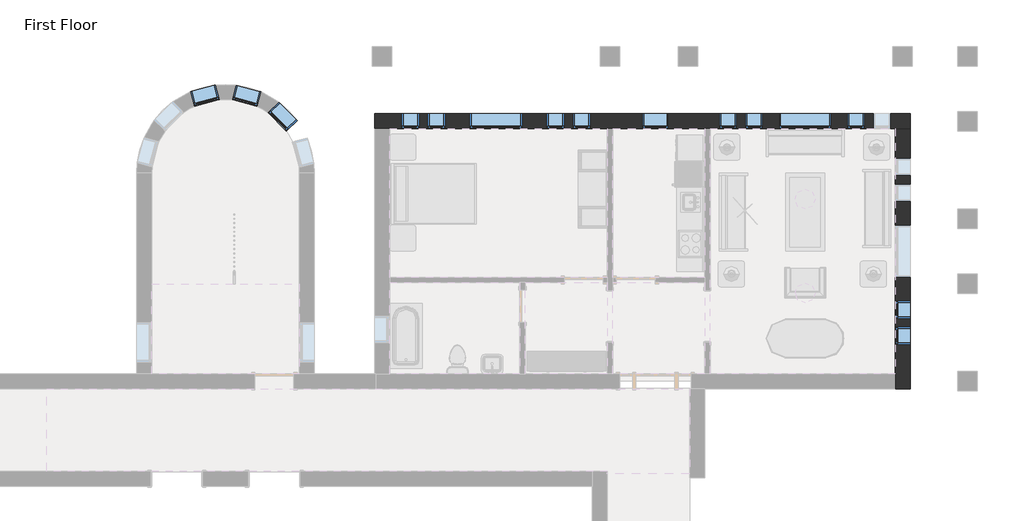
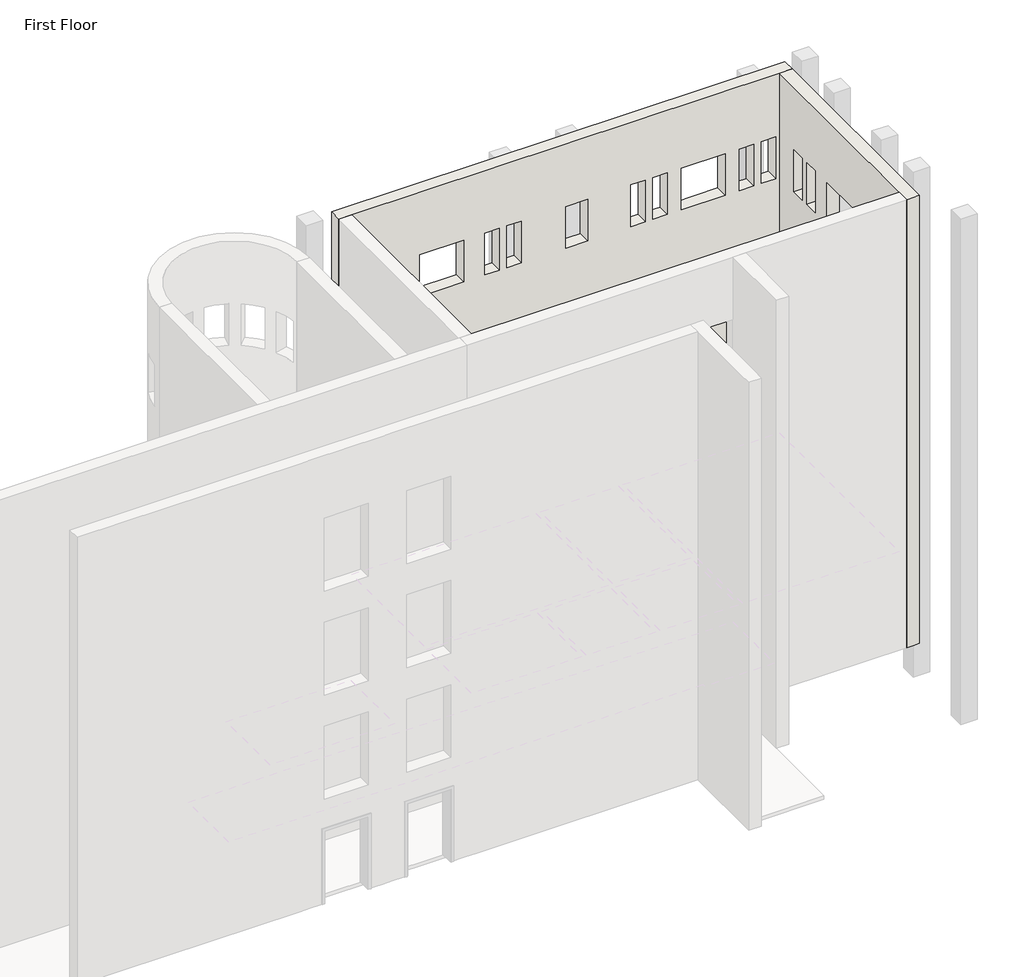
# One storey, part 5 of 8: 15 windows, 2 walls.
"""IFC4 building model written with IfcOpenShell, lengths in millimetres."""

import ifcopenshell
import ifcopenshell.guid

model = None  # the IFC model being written
_history = None  # IfcOwnerHistory: only IFC2X3 demands one
_inside = {}  # id of a spatial element -> (the spatial element, [elements in it])
_under = {}  # id of a project, library or spatial element -> (it, [spatial elements below it])
_declared = {}  # id of a project -> (the project, [libraries it declares])
_typed = {}  # id of a type object -> (the type object, [elements of that type])
_made_of = {}  # id of a material, layer set ... -> (it, [elements and type objects made of it])


def new_model(schema):
    """Start an empty IFC model of exactly this schema.

    Asked for "IFC4X3", IfcOpenShell would pick the latest addendum, in which some entities
    have other attributes; the version numbers below select the first issue.
    IFC2X3 requires an IfcOwnerHistory on every rooted entity: one is made here for all.
    """
    global model, _history
    if schema == "IFC4X3":
        model = ifcopenshell.file(schema_version=(4, 3, 0, 0))
    else:
        model = ifcopenshell.file(schema=schema)
    _inside.clear()
    _under.clear()
    _declared.clear()
    _typed.clear()
    _made_of.clear()
    _history = None
    if model.schema == "IFC2X3":
        org = make("IfcOrganization", Name="unknown")
        user = make(
            "IfcPersonAndOrganization",
            ThePerson=make("IfcPerson", FamilyName="unknown"),
            TheOrganization=org,
        )
        app = make(
            "IfcApplication",
            ApplicationDeveloper=org,
            Version="unknown",
            ApplicationFullName="unknown",
            ApplicationIdentifier="unknown",
        )
        _history = make(
            "IfcOwnerHistory",
            OwningUser=user,
            OwningApplication=app,
            ChangeAction="ADDED",
            CreationDate=0,
        )
    return model


def make(cls, **values):
    """One entity of the class cls with the attributes given. An attribute that is None is left unset."""
    return model.create_entity(
        cls, **{name: value for name, value in values.items() if value is not None}
    )


def rooted(cls, **values):
    """An entity with a GlobalId (a new one), such as an element, a storey or a relation."""
    return make(cls, GlobalId=ifcopenshell.guid.new(), OwnerHistory=_history, **values)


def si_unit(unit_type, name, prefix=None):
    """IfcSIUnit, for example si_unit("LENGTHUNIT", "METRE", prefix="MILLI")."""
    return make("IfcSIUnit", UnitType=unit_type, Prefix=prefix, Name=name)


def assignment(units):
    """IfcUnitAssignment: the units of a project."""
    return None if units is None else make("IfcUnitAssignment", Units=units)


def point(xyz):
    """IfcCartesianPoint."""
    return None if xyz is None else make("IfcCartesianPoint", Coordinates=xyz)


def direction(xyz):
    """IfcDirection."""
    return None if xyz is None else make("IfcDirection", DirectionRatios=xyz)


def frame(location, z_axis=None, x_axis=None):
    """IfcAxis2Placement3D, a coordinate frame: its origin and axes. An axis left out is left unset."""
    return make(
        "IfcAxis2Placement3D",
        Location=point(location),
        Axis=direction(z_axis),
        RefDirection=direction(x_axis),
    )


def origin():
    """The frame at (0, 0, 0) with its axes left unset."""
    return frame((0.0, 0.0, 0.0))


def place(relative_to, where):
    """IfcLocalPlacement: puts the frame where relative to a parent placement (None: the world)."""
    return make(
        "IfcLocalPlacement", PlacementRelTo=relative_to, RelativePlacement=where
    )


def context(
    kind, dimensions, precision=None, world=None, true_north=None, identifier=None
):
    """IfcGeometricRepresentationContext, for example the 3D "Model" context."""
    return make(
        "IfcGeometricRepresentationContext",
        ContextIdentifier=identifier,
        ContextType=kind,
        CoordinateSpaceDimension=dimensions,
        Precision=precision,
        WorldCoordinateSystem=world,
        TrueNorth=true_north,
    )


def project(units=None, contexts=None):
    """IfcProject with its units and contexts."""
    return rooted(
        "IfcProject",
        Name="project",
        RepresentationContexts=contexts,
        UnitsInContext=assignment(units),
    )


def spatial(cls, under=None, at=None, **own):
    """A site, building, storey or space (cls), placed at a placement, below another one or the project."""
    s = rooted(cls, ObjectPlacement=at, **own)
    if under is not None:
        _under.setdefault(under.id(), (under, []))[1].append(s)
    return s


def polyline(points):
    """IfcPolyline through the points."""
    return make("IfcPolyline", Points=[point(p) for p in points])


def outline(outer, holes=None, kind="AREA"):
    """IfcArbitraryClosedProfileDef: a profile drawn as a closed curve; with holes, ...WithVoids."""
    if holes is None:
        return make("IfcArbitraryClosedProfileDef", ProfileType=kind, OuterCurve=outer)
    return make(
        "IfcArbitraryProfileDefWithVoids",
        ProfileType=kind,
        OuterCurve=outer,
        InnerCurves=holes,
    )


def extrude(swept, where, along, depth):
    """IfcExtrudedAreaSolid: the profile swept, set in the frame where, extruded along a direction by depth."""
    return make(
        "IfcExtrudedAreaSolid",
        SweptArea=swept,
        Position=where,
        ExtrudedDirection=direction(along),
        Depth=depth,
    )


def faces_of(points, faces, orient=None, outer=None):
    """IfcFace entities. A face is a list of loops; a loop is a list of indices into points, from 0.

    orient and outer hold one flag for each loop. By default every Orientation is true, the
    first loop of a face is its IfcFaceOuterBound and the others are IfcFaceBound.
    """
    made = []
    for i, loops in enumerate(faces):
        bounds = []
        for j, loop in enumerate(loops):
            is_outer = j == 0 if outer is None else outer[i][j]
            bounds.append(
                make(
                    "IfcFaceOuterBound" if is_outer else "IfcFaceBound",
                    Bound=make("IfcPolyLoop", Polygon=[points[k] for k in loop]),
                    Orientation=True if orient is None else orient[i][j],
                )
            )
        made.append(make("IfcFace", Bounds=bounds))
    return made


def faceted_brep(points, faces, orient=None, outer=None, voids=None):
    """IfcFacetedBrep: a solid bounded by flat faces; with voids (closed shells), ...WithVoids."""
    shared = [point(p) for p in points]
    hull = make("IfcClosedShell", CfsFaces=faces_of(shared, faces, orient, outer))
    if voids is None:
        return make("IfcFacetedBrep", Outer=hull)
    return make(
        "IfcFacetedBrepWithVoids",
        Outer=hull,
        Voids=[
            make(cls, CfsFaces=faces_of(shared, fs, o, b)) for cls, fs, o, b in voids
        ],
    )


def shape(context_of_items, identifier, shape_type, items):
    """IfcShapeRepresentation: the items that make up one representation, for example the "Body"."""
    return make(
        "IfcShapeRepresentation",
        ContextOfItems=context_of_items,
        RepresentationIdentifier=identifier,
        RepresentationType=shape_type,
        Items=items,
    )


def source(mapping_origin, context_of_items, identifier, shape_type, items):
    """IfcRepresentationMap: a shape defined once, which mapped items show again and again."""
    return make(
        "IfcRepresentationMap",
        MappingOrigin=mapping_origin,
        MappedRepresentation=shape(context_of_items, identifier, shape_type, items),
    )


def transform(
    local_origin,
    x_axis=None,
    y_axis=None,
    z_axis=None,
    scale=None,
    scale2=None,
    scale3=None,
    uniform=True,
):
    """IfcCartesianTransformationOperator3D, or its non-uniform kind. x_axis, y_axis, z_axis: its Axis1, 2, 3."""
    if uniform:
        return make(
            "IfcCartesianTransformationOperator3D",
            Axis1=direction(x_axis),
            Axis2=direction(y_axis),
            LocalOrigin=point(local_origin),
            Scale=scale,
            Axis3=direction(z_axis),
        )
    return make(
        "IfcCartesianTransformationOperator3DnonUniform",
        Axis1=direction(x_axis),
        Axis2=direction(y_axis),
        LocalOrigin=point(local_origin),
        Scale=scale,
        Axis3=direction(z_axis),
        Scale2=scale2,
        Scale3=scale3,
    )


def mapped(mapping_source, mapping_target):
    """IfcMappedItem: shows the shape of a source again, moved by a transform."""
    return make(
        "IfcMappedItem", MappingSource=mapping_source, MappingTarget=mapping_target
    )


def made_of(thing, what):
    """Note that an element or type object is made of a material, layer set ...; save() writes the relation."""
    if what is not None:
        _made_of.setdefault(what.id(), (what, []))[1].append(thing)
    return thing


def element(
    cls,
    number,
    at=None,
    inside=None,
    cuts=None,
    type_object=None,
    material=None,
    context=None,
    identifier="Body",
    shape_type=None,
    held_by="IfcProductDefinitionShape",
    body=None,
    shapes=None,
    **own,
):
    """One element of the class cls, such as IfcWall. Its Tag is "e" and its number.

    at: its placement. inside: the storey or other place that contains it. cuts: it is an
    opening in that element (IfcRelVoidsElement). A single representation is given by context,
    identifier, shape_type and body (its items); several are given by shapes. held_by: the class
    of the entity that holds the representations. save() writes the other relations.
    """
    e = rooted(cls, Tag="e%d" % number, ObjectPlacement=at, **own)
    if body is not None:
        shapes = [shape(context, identifier, shape_type, body)]
    if shapes is not None:
        e.Representation = make(held_by, Representations=shapes)
    if inside is not None:
        _inside.setdefault(inside.id(), (inside, []))[1].append(e)
    if cuts is not None:
        rooted(
            "IfcRelVoidsElement", RelatingBuildingElement=cuts, RelatedOpeningElement=e
        )
    if type_object is not None:
        _typed.setdefault(type_object.id(), (type_object, []))[1].append(e)
    return made_of(e, material)


def aggregate(whole, parts):
    """IfcRelAggregates: a whole, such as a stair, and the parts it consists of."""
    return rooted("IfcRelAggregates", RelatingObject=whole, RelatedObjects=parts)


def save(model, path):
    """Write the relations noted so far, then the file.

    IfcRelAggregates (storeys below a building ...), IfcRelContainedInSpatialStructure (elements
    in a storey), IfcRelDefinesByType, IfcRelAssociatesMaterial and IfcRelDeclares: one each for
    every whole, place, type object, material and project.
    """
    for whole, parts in _under.values():
        aggregate(whole, parts)
    for where, things in _inside.values():
        rooted(
            "IfcRelContainedInSpatialStructure",
            RelatedElements=things,
            RelatingStructure=where,
        )
    for kind, things in _typed.values():
        rooted("IfcRelDefinesByType", RelatedObjects=things, RelatingType=kind)
    for what, things in _made_of.values():
        rooted("IfcRelAssociatesMaterial", RelatedObjects=things, RelatingMaterial=what)
    for by, libraries in _declared.values():
        rooted("IfcRelDeclares", RelatingContext=by, RelatedDefinitions=libraries)
    model.write(path)


def window_da97879f(model_context):
    return source(origin(), model_context, "Body", "SweptSolid", [
        extrude(outline(polyline([(101.6, 128.5875), (-177.8, 128.5875), (-177.8, 141.2875), (101.6, 141.2875), (101.6, 128.5875)])), frame((0.0, 0.0, 977.9), z_axis=(0.0, 0.0, 1.0), x_axis=(1.0, 0.0, 0.0)), (0.0, 0.0, 1.0), 1092.2),
        extrude(outline(polyline([(2114.55, -222.25), (933.45, -222.25), (933.45, 146.05), (2114.55, 146.05), (2114.55, -222.25)]), holes=[polyline([(2070.1, -177.8), (2070.1, 101.6), (977.9, 101.6), (977.9, -177.8), (2070.1, -177.8)])]), frame((0.0, 112.7125, 0.0), z_axis=(0.0, 1.0, 0.0), x_axis=(0.0, 0.0, 1.0)), (0.0, 0.0, 1.0), 44.45),
        extrude(outline(polyline([(2133.6, -241.3), (914.4, -241.3), (914.4, 165.1), (2133.6, 165.1), (2133.6, -241.3)]), holes=[polyline([(2101.85, -209.55), (2101.85, 133.35), (946.15, 133.35), (946.15, -209.55), (2101.85, -209.55)])]), frame((0.0, -176.2125, 0.0), z_axis=(0.0, 1.0, 0.0), x_axis=(0.0, 0.0, 1.0)), (0.0, 0.0, 1.0), 288.925),
        extrude(outline(polyline([(2133.6, 165.1), (2133.6, -241.3), (914.4, -241.3), (914.4, 165.1), (2133.6, 165.1)]), holes=[polyline([(2114.55, 146.05), (933.45, 146.05), (933.45, -222.25), (2114.55, -222.25), (2114.55, 146.05)])]), frame((0.0, 112.7125, 0.0), z_axis=(0.0, 1.0, 0.0), x_axis=(0.0, 0.0, 1.0)), (0.0, 0.0, 1.0), 63.5),
    ])


def window_d61ef850(model_context):
    return source(origin(), model_context, "Body", "SweptSolid", [
        extrude(outline(polyline([(101.6, -128.5875), (101.6, -141.2875), (-177.8, -141.2875), (-177.8, -128.5875), (101.6, -128.5875)])), frame((0.0, 0.0, 977.9), z_axis=(0.0, 0.0, 1.0), x_axis=(1.0, 0.0, 0.0)), (0.0, 0.0, 1.0), 1092.2),
        extrude(outline(polyline([(2114.55, -222.25), (933.45, -222.25), (933.45, 146.05), (2114.55, 146.05), (2114.55, -222.25)]), holes=[polyline([(2070.1, -177.8), (2070.1, 101.6), (977.9, 101.6), (977.9, -177.8), (2070.1, -177.8)])]), frame((0.0, -157.1625, 0.0), z_axis=(0.0, 1.0, 0.0), x_axis=(0.0, 0.0, 1.0)), (0.0, 0.0, 1.0), 44.45),
        extrude(outline(polyline([(2133.6, -241.3), (914.4, -241.3), (914.4, 165.1), (2133.6, 165.1), (2133.6, -241.3)]), holes=[polyline([(2101.85, -209.55), (2101.85, 133.35), (946.15, 133.35), (946.15, -209.55), (2101.85, -209.55)])]), frame((0.0, -112.7125, 0.0), z_axis=(0.0, 1.0, 0.0), x_axis=(0.0, 0.0, 1.0)), (0.0, 0.0, 1.0), 288.925),
        extrude(outline(polyline([(2133.6, 165.1), (2133.6, -241.3), (914.4, -241.3), (914.4, 165.1), (2133.6, 165.1)]), holes=[polyline([(2114.55, 146.05), (933.45, 146.05), (933.45, -222.25), (2114.55, -222.25), (2114.55, 146.05)])]), frame((0.0, -176.2125, 0.0), z_axis=(0.0, 1.0, 0.0), x_axis=(0.0, 0.0, 1.0)), (0.0, 0.0, 1.0), 63.5),
    ])


def window_60baf983(model_context):
    return source(origin(), model_context, "Body", "SweptSolid", [
        extrude(outline(polyline([(203.2, 128.5875), (-279.4, 128.5875), (-279.4, 141.2875), (203.2, 141.2875), (203.2, 128.5875)])), frame((0.0, 0.0, 977.9), z_axis=(0.0, 0.0, 1.0), x_axis=(1.0, 0.0, 0.0)), (0.0, 0.0, 1.0), 1092.2),
        extrude(outline(polyline([(2114.55, -323.85), (933.45, -323.85), (933.45, 247.65), (2114.55, 247.65), (2114.55, -323.85)]), holes=[polyline([(2070.1, -279.4), (2070.1, 203.2), (977.9, 203.2), (977.9, -279.4), (2070.1, -279.4)])]), frame((0.0, 112.7125, 0.0), z_axis=(0.0, 1.0, 0.0), x_axis=(0.0, 0.0, 1.0)), (0.0, 0.0, 1.0), 44.45),
        extrude(outline(polyline([(2133.6, -342.9), (914.4, -342.9), (914.4, 266.7), (2133.6, 266.7), (2133.6, -342.9)]), holes=[polyline([(2101.85, -311.15), (2101.85, 234.95), (946.15, 234.95), (946.15, -311.15), (2101.85, -311.15)])]), frame((0.0, -176.2125, 0.0), z_axis=(0.0, 1.0, 0.0), x_axis=(0.0, 0.0, 1.0)), (0.0, 0.0, 1.0), 288.925),
        extrude(outline(polyline([(2133.6, 266.7), (2133.6, -342.9), (914.4, -342.9), (914.4, 266.7), (2133.6, 266.7)]), holes=[polyline([(2114.55, 247.65), (933.45, 247.65), (933.45, -323.85), (2114.55, -323.85), (2114.55, 247.65)])]), frame((0.0, 112.7125, 0.0), z_axis=(0.0, 1.0, 0.0), x_axis=(0.0, 0.0, 1.0)), (0.0, 0.0, 1.0), 63.5),
    ])


def window_6eb97611(model_context):
    return source(origin(), model_context, "Body", "SweptSolid", [
        extrude(outline(polyline([(508.0, 128.5875), (-584.2, 128.5875), (-584.2, 141.2875), (508.0, 141.2875), (508.0, 128.5875)])), frame((0.0, 0.0, 977.9), z_axis=(0.0, 0.0, 1.0), x_axis=(1.0, 0.0, 0.0)), (0.0, 0.0, 1.0), 1092.2),
        extrude(outline(polyline([(2114.55, -628.65), (933.45, -628.65), (933.45, 552.45), (2114.55, 552.45), (2114.55, -628.65)]), holes=[polyline([(2070.1, -584.2), (2070.1, 508.0), (977.9, 508.0), (977.9, -584.2), (2070.1, -584.2)])]), frame((0.0, 112.7125, 0.0), z_axis=(0.0, 1.0, 0.0), x_axis=(0.0, 0.0, 1.0)), (0.0, 0.0, 1.0), 44.45),
        extrude(outline(polyline([(2133.6, -647.7), (914.4, -647.7), (914.4, 571.5), (2133.6, 571.5), (2133.6, -647.7)]), holes=[polyline([(2101.85, -615.95), (2101.85, 539.75), (946.15, 539.75), (946.15, -615.95), (2101.85, -615.95)])]), frame((0.0, -176.2125, 0.0), z_axis=(0.0, 1.0, 0.0), x_axis=(0.0, 0.0, 1.0)), (0.0, 0.0, 1.0), 288.925),
        extrude(outline(polyline([(2133.6, 571.5), (2133.6, -647.7), (914.4, -647.7), (914.4, 571.5), (2133.6, 571.5)]), holes=[polyline([(2114.55, 552.45), (933.45, 552.45), (933.45, -628.65), (2114.55, -628.65), (2114.55, 552.45)])]), frame((0.0, 112.7125, 0.0), z_axis=(0.0, 1.0, 0.0), x_axis=(0.0, 0.0, 1.0)), (0.0, 0.0, 1.0), 63.5),
    ])


model = new_model("IFC4")

# Units and contexts
model_context = context("Model", 3, world=origin())
ifc_project = project(units=[si_unit("LENGTHUNIT", "METRE", prefix="MILLI")], contexts=[model_context])

# Site, building, storey
site = spatial("IfcSite", under=ifc_project)
building = spatial("IfcBuilding", under=site)
storey = spatial("IfcBuildingStorey", under=building, Name="First Floor", Elevation=0.0)

# Walls
placement = place(None, origin())
element("IfcWall", 1, ObjectType="Exterior - Brick on Mtl. Stud", at=placement, inside=storey, context=model_context, shape_type="Brep", body=[
    faceted_brep([(-11569.6714563, 10270.0191867, 13106.4), (-11217.2464563, 10270.0191867, 13106.4), (622.3285437, 10270.0191867, 13106.4), (974.7535437, 10270.0191867, 13106.4), (974.7535437, 10622.4441867, 13106.4), (-11569.6714563, 10622.4441867, 13106.4), (-11569.6714563, 10270.0191867, 0.0), (-11382.3464563, 10270.0191867, 0.0), (-11217.2464563, 10270.0191867, 0.0), (-6122.9589563, 10270.0191867, 0.0), (-5995.9589563, 10270.0191867, 0.0), (-3836.9589563, 10270.0191867, 0.0), (-3709.9589563, 10270.0191867, 0.0), (622.3285437, 10270.0191867, 0.0), (787.4285437, 10270.0191867, 0.0), (974.7535437, 10270.0191867, 0.0), (-90.4589563, 10270.0191867, 8229.6), (-90.4589563, 10270.0191867, 7010.4), (-496.8589563, 10270.0191867, 7010.4), (-496.8589563, 10270.0191867, 8229.6), (519.1410437, 10270.0191867, 8229.6), (519.1410437, 10270.0191867, 7010.4), (112.7410437, 10270.0191867, 7010.4), (112.7410437, 10270.0191867, 8229.6), (-2884.4589563, 10270.0191867, 8229.6), (-2478.0589563, 10270.0191867, 8229.6), (-2478.0589563, 10270.0191867, 7010.4), (-2884.4589563, 10270.0191867, 7010.4), (-3494.0589563, 10270.0191867, 8229.6), (-3087.6589563, 10270.0191867, 8229.6), (-3087.6589563, 10270.0191867, 7010.4), (-3494.0589563, 10270.0191867, 7010.4), (-7126.2589563, 10270.0191867, 8229.6), (-7126.2589563, 10270.0191867, 7010.4), (-7532.6589563, 10270.0191867, 7010.4), (-7532.6589563, 10270.0191867, 8229.6), (-6516.6589563, 10270.0191867, 8229.6), (-6516.6589563, 10270.0191867, 7010.4), (-6923.0589563, 10270.0191867, 7010.4), (-6923.0589563, 10270.0191867, 8229.6), (-10326.6589563, 10270.0191867, 8229.6), (-9920.2589563, 10270.0191867, 8229.6), (-9920.2589563, 10270.0191867, 7010.4), (-10326.6589563, 10270.0191867, 7010.4), (-10936.2589563, 10270.0191867, 8229.6), (-10529.8589563, 10270.0191867, 8229.6), (-10529.8589563, 10270.0191867, 7010.4), (-10936.2589563, 10270.0191867, 7010.4), (-2097.0589563, 10270.0191867, 8229.6), (-877.8589563, 10270.0191867, 8229.6), (-877.8589563, 10270.0191867, 7010.4), (-2097.0589563, 10270.0191867, 7010.4), (-9336.0589563, 10270.0191867, 8229.6), (-8116.8589563, 10270.0191867, 8229.6), (-8116.8589563, 10270.0191867, 7010.4), (-9336.0589563, 10270.0191867, 7010.4), (-5297.4589563, 10270.0191867, 8229.6), (-4687.8589563, 10270.0191867, 8229.6), (-4687.8589563, 10270.0191867, 7010.4), (-5297.4589563, 10270.0191867, 7010.4), (-90.4589563, 10270.0191867, 5181.6), (-90.4589563, 10270.0191867, 3962.4), (-496.8589563, 10270.0191867, 3962.4), (-496.8589563, 10270.0191867, 5181.6), (519.1410437, 10270.0191867, 5181.6), (519.1410437, 10270.0191867, 3962.4), (112.7410437, 10270.0191867, 3962.4), (112.7410437, 10270.0191867, 5181.6), (-2884.4589563, 10270.0191867, 5181.6), (-2478.0589563, 10270.0191867, 5181.6), (-2478.0589563, 10270.0191867, 3962.4), (-2884.4589563, 10270.0191867, 3962.4), (-3494.0589563, 10270.0191867, 5181.6), (-3087.6589563, 10270.0191867, 5181.6), (-3087.6589563, 10270.0191867, 3962.4), (-3494.0589563, 10270.0191867, 3962.4), (-7126.2589563, 10270.0191867, 5181.6), (-7126.2589563, 10270.0191867, 3962.4), (-7532.6589563, 10270.0191867, 3962.4), (-7532.6589563, 10270.0191867, 5181.6), (-6516.6589563, 10270.0191867, 5181.6), (-6516.6589563, 10270.0191867, 3962.4), (-6923.0589563, 10270.0191867, 3962.4), (-6923.0589563, 10270.0191867, 5181.6), (-10326.6589563, 10270.0191867, 5181.6), (-9920.2589563, 10270.0191867, 5181.6), (-9920.2589563, 10270.0191867, 3962.4), (-10326.6589563, 10270.0191867, 3962.4), (-10936.2589563, 10270.0191867, 5181.6), (-10529.8589563, 10270.0191867, 5181.6), (-10529.8589563, 10270.0191867, 3962.4), (-10936.2589563, 10270.0191867, 3962.4), (-2097.0589563, 10270.0191867, 5181.6), (-877.8589563, 10270.0191867, 5181.6), (-877.8589563, 10270.0191867, 3962.4), (-2097.0589563, 10270.0191867, 3962.4), (-9336.0589563, 10270.0191867, 5181.6), (-8116.8589563, 10270.0191867, 5181.6), (-8116.8589563, 10270.0191867, 3962.4), (-9336.0589563, 10270.0191867, 3962.4), (-5297.4589563, 10270.0191867, 5181.6), (-4687.8589563, 10270.0191867, 5181.6), (-4687.8589563, 10270.0191867, 3962.4), (-5297.4589563, 10270.0191867, 3962.4), (-90.4589563, 10270.0191867, 11277.6), (-90.4589563, 10270.0191867, 10058.4), (-496.8589563, 10270.0191867, 10058.4), (-496.8589563, 10270.0191867, 11277.6), (519.1410437, 10270.0191867, 11277.6), (519.1410437, 10270.0191867, 10058.4), (112.7410437, 10270.0191867, 10058.4), (112.7410437, 10270.0191867, 11277.6), (-2884.4589563, 10270.0191867, 11277.6), (-2478.0589563, 10270.0191867, 11277.6), (-2478.0589563, 10270.0191867, 10058.4), (-2884.4589563, 10270.0191867, 10058.4), (-3494.0589563, 10270.0191867, 11277.6), (-3087.6589563, 10270.0191867, 11277.6), (-3087.6589563, 10270.0191867, 10058.4), (-3494.0589563, 10270.0191867, 10058.4), (-7126.2589563, 10270.0191867, 11277.6), (-7126.2589563, 10270.0191867, 10058.4), (-7532.6589563, 10270.0191867, 10058.4), (-7532.6589563, 10270.0191867, 11277.6), (-6516.6589563, 10270.0191867, 11277.6), (-6516.6589563, 10270.0191867, 10058.4), (-6923.0589563, 10270.0191867, 10058.4), (-6923.0589563, 10270.0191867, 11277.6), (-10326.6589563, 10270.0191867, 11277.6), (-9920.2589563, 10270.0191867, 11277.6), (-9920.2589563, 10270.0191867, 10058.4), (-10326.6589563, 10270.0191867, 10058.4), (-10936.2589563, 10270.0191867, 11277.6), (-10529.8589563, 10270.0191867, 11277.6), (-10529.8589563, 10270.0191867, 10058.4), (-10936.2589563, 10270.0191867, 10058.4), (-2097.0589563, 10270.0191867, 11277.6), (-877.8589563, 10270.0191867, 11277.6), (-877.8589563, 10270.0191867, 10058.4), (-2097.0589563, 10270.0191867, 10058.4), (-9336.0589563, 10270.0191867, 11277.6), (-8116.8589563, 10270.0191867, 11277.6), (-8116.8589563, 10270.0191867, 10058.4), (-9336.0589563, 10270.0191867, 10058.4), (-5297.4589563, 10270.0191867, 11277.6), (-4687.8589563, 10270.0191867, 11277.6), (-4687.8589563, 10270.0191867, 10058.4), (-5297.4589563, 10270.0191867, 10058.4), (-2884.4589563, 10270.0191867, 2133.6), (-2478.0589563, 10270.0191867, 2133.6), (-2478.0589563, 10270.0191867, 914.4), (-2884.4589563, 10270.0191867, 914.4), (-3494.0589563, 10270.0191867, 2133.6), (-3087.6589563, 10270.0191867, 2133.6), (-3087.6589563, 10270.0191867, 914.4), (-3494.0589563, 10270.0191867, 914.4), (-10326.6589563, 10270.0191867, 2133.6), (-9920.2589563, 10270.0191867, 2133.6), (-9920.2589563, 10270.0191867, 914.4), (-10326.6589563, 10270.0191867, 914.4), (-10936.2589563, 10270.0191867, 2133.6), (-10529.8589563, 10270.0191867, 2133.6), (-10529.8589563, 10270.0191867, 914.4), (-10936.2589563, 10270.0191867, 914.4), (-2097.0589563, 10270.0191867, 2133.6), (-877.8589563, 10270.0191867, 2133.6), (-877.8589563, 10270.0191867, 914.4), (-2097.0589563, 10270.0191867, 914.4), (-9336.0589563, 10270.0191867, 2133.6), (-8116.8589563, 10270.0191867, 2133.6), (-8116.8589563, 10270.0191867, 914.4), (-9336.0589563, 10270.0191867, 914.4), (-5297.4589563, 10270.0191867, 2133.6), (-4687.8589563, 10270.0191867, 2133.6), (-4687.8589563, 10270.0191867, 914.4), (-5297.4589563, 10270.0191867, 914.4), (-6516.6589563, 10270.0191867, 2133.6), (-6516.6589563, 10270.0191867, 914.4), (-6923.0589563, 10270.0191867, 914.4), (-6923.0589563, 10270.0191867, 2133.6), (-7126.2589563, 10270.0191867, 2133.6), (-7126.2589563, 10270.0191867, 914.4), (-7532.6589563, 10270.0191867, 914.4), (-7532.6589563, 10270.0191867, 2133.6), (519.1410437, 10270.0191867, 2133.6), (519.1410437, 10270.0191867, 914.4), (112.7410437, 10270.0191867, 914.4), (112.7410437, 10270.0191867, 2133.6), (-90.4589563, 10270.0191867, 2133.6), (-90.4589563, 10270.0191867, 914.4), (-496.8589563, 10270.0191867, 914.4), (-496.8589563, 10270.0191867, 2133.6), (-11569.6714563, 10622.4441867, 0.0), (974.7535437, 10622.4441867, 0.0), (787.4285437, 10622.4441867, 0.0), (-11382.3464563, 10622.4441867, 0.0), (-90.4589563, 10622.4441867, 8229.6), (-496.8589563, 10622.4441867, 8229.6), (-496.8589563, 10622.4441867, 7010.4), (-90.4589563, 10622.4441867, 7010.4), (519.1410437, 10622.4441867, 8229.6), (112.7410437, 10622.4441867, 8229.6), (112.7410437, 10622.4441867, 7010.4), (519.1410437, 10622.4441867, 7010.4), (-2884.4589563, 10622.4441867, 8229.6), (-2884.4589563, 10622.4441867, 7010.4), (-2478.0589563, 10622.4441867, 7010.4), (-2478.0589563, 10622.4441867, 8229.6), (-3494.0589563, 10622.4441867, 8229.6), (-3494.0589563, 10622.4441867, 7010.4), (-3087.6589563, 10622.4441867, 7010.4), (-3087.6589563, 10622.4441867, 8229.6), (-7126.2589563, 10622.4441867, 8229.6), (-7532.6589563, 10622.4441867, 8229.6), (-7532.6589563, 10622.4441867, 7010.4), (-7126.2589563, 10622.4441867, 7010.4), (-6516.6589563, 10622.4441867, 8229.6), (-6923.0589563, 10622.4441867, 8229.6), (-6923.0589563, 10622.4441867, 7010.4), (-6516.6589563, 10622.4441867, 7010.4), (-10326.6589563, 10622.4441867, 8229.6), (-10326.6589563, 10622.4441867, 7010.4), (-9920.2589563, 10622.4441867, 7010.4), (-9920.2589563, 10622.4441867, 8229.6), (-10936.2589563, 10622.4441867, 8229.6), (-10936.2589563, 10622.4441867, 7010.4), (-10529.8589563, 10622.4441867, 7010.4), (-10529.8589563, 10622.4441867, 8229.6), (-2097.0589563, 10622.4441867, 8229.6), (-2097.0589563, 10622.4441867, 7010.4), (-877.8589563, 10622.4441867, 7010.4), (-877.8589563, 10622.4441867, 8229.6), (-9336.0589563, 10622.4441867, 8229.6), (-9336.0589563, 10622.4441867, 7010.4), (-8116.8589563, 10622.4441867, 7010.4), (-8116.8589563, 10622.4441867, 8229.6), (-5297.4589563, 10622.4441867, 8229.6), (-5297.4589563, 10622.4441867, 7010.4), (-4687.8589563, 10622.4441867, 7010.4), (-4687.8589563, 10622.4441867, 8229.6), (-90.4589563, 10622.4441867, 5181.6), (-496.8589563, 10622.4441867, 5181.6), (-496.8589563, 10622.4441867, 3962.4), (-90.4589563, 10622.4441867, 3962.4), (519.1410437, 10622.4441867, 5181.6), (112.7410437, 10622.4441867, 5181.6), (112.7410437, 10622.4441867, 3962.4), (519.1410437, 10622.4441867, 3962.4), (-2884.4589563, 10622.4441867, 5181.6), (-2884.4589563, 10622.4441867, 3962.4), (-2478.0589563, 10622.4441867, 3962.4), (-2478.0589563, 10622.4441867, 5181.6), (-3494.0589563, 10622.4441867, 5181.6), (-3494.0589563, 10622.4441867, 3962.4), (-3087.6589563, 10622.4441867, 3962.4), (-3087.6589563, 10622.4441867, 5181.6), (-7126.2589563, 10622.4441867, 5181.6), (-7532.6589563, 10622.4441867, 5181.6), (-7532.6589563, 10622.4441867, 3962.4), (-7126.2589563, 10622.4441867, 3962.4), (-6516.6589563, 10622.4441867, 5181.6), (-6923.0589563, 10622.4441867, 5181.6), (-6923.0589563, 10622.4441867, 3962.4), (-6516.6589563, 10622.4441867, 3962.4), (-10326.6589563, 10622.4441867, 5181.6), (-10326.6589563, 10622.4441867, 3962.4), (-9920.2589563, 10622.4441867, 3962.4), (-9920.2589563, 10622.4441867, 5181.6), (-10936.2589563, 10622.4441867, 5181.6), (-10936.2589563, 10622.4441867, 3962.4), (-10529.8589563, 10622.4441867, 3962.4), (-10529.8589563, 10622.4441867, 5181.6), (-2097.0589563, 10622.4441867, 5181.6), (-2097.0589563, 10622.4441867, 3962.4), (-877.8589563, 10622.4441867, 3962.4), (-877.8589563, 10622.4441867, 5181.6), (-9336.0589563, 10622.4441867, 5181.6), (-9336.0589563, 10622.4441867, 3962.4), (-8116.8589563, 10622.4441867, 3962.4), (-8116.8589563, 10622.4441867, 5181.6), (-5297.4589563, 10622.4441867, 5181.6), (-5297.4589563, 10622.4441867, 3962.4), (-4687.8589563, 10622.4441867, 3962.4), (-4687.8589563, 10622.4441867, 5181.6), (-90.4589563, 10622.4441867, 11277.6), (-496.8589563, 10622.4441867, 11277.6), (-496.8589563, 10622.4441867, 10058.4), (-90.4589563, 10622.4441867, 10058.4), (519.1410437, 10622.4441867, 11277.6), (112.7410437, 10622.4441867, 11277.6), (112.7410437, 10622.4441867, 10058.4), (519.1410437, 10622.4441867, 10058.4), (-2884.4589563, 10622.4441867, 11277.6), (-2884.4589563, 10622.4441867, 10058.4), (-2478.0589563, 10622.4441867, 10058.4), (-2478.0589563, 10622.4441867, 11277.6), (-3494.0589563, 10622.4441867, 11277.6), (-3494.0589563, 10622.4441867, 10058.4), (-3087.6589563, 10622.4441867, 10058.4), (-3087.6589563, 10622.4441867, 11277.6), (-7126.2589563, 10622.4441867, 11277.6), (-7532.6589563, 10622.4441867, 11277.6), (-7532.6589563, 10622.4441867, 10058.4), (-7126.2589563, 10622.4441867, 10058.4), (-6516.6589563, 10622.4441867, 11277.6), (-6923.0589563, 10622.4441867, 11277.6), (-6923.0589563, 10622.4441867, 10058.4), (-6516.6589563, 10622.4441867, 10058.4), (-10326.6589563, 10622.4441867, 11277.6), (-10326.6589563, 10622.4441867, 10058.4), (-9920.2589563, 10622.4441867, 10058.4), (-9920.2589563, 10622.4441867, 11277.6), (-10936.2589563, 10622.4441867, 11277.6), (-10936.2589563, 10622.4441867, 10058.4), (-10529.8589563, 10622.4441867, 10058.4), (-10529.8589563, 10622.4441867, 11277.6), (-2097.0589563, 10622.4441867, 11277.6), (-2097.0589563, 10622.4441867, 10058.4), (-877.8589563, 10622.4441867, 10058.4), (-877.8589563, 10622.4441867, 11277.6), (-9336.0589563, 10622.4441867, 11277.6), (-9336.0589563, 10622.4441867, 10058.4), (-8116.8589563, 10622.4441867, 10058.4), (-8116.8589563, 10622.4441867, 11277.6), (-5297.4589563, 10622.4441867, 11277.6), (-5297.4589563, 10622.4441867, 10058.4), (-4687.8589563, 10622.4441867, 10058.4), (-4687.8589563, 10622.4441867, 11277.6), (-2884.4589563, 10622.4441867, 2133.6), (-2884.4589563, 10622.4441867, 914.4), (-2478.0589563, 10622.4441867, 914.4), (-2478.0589563, 10622.4441867, 2133.6), (-3494.0589563, 10622.4441867, 2133.6), (-3494.0589563, 10622.4441867, 914.4), (-3087.6589563, 10622.4441867, 914.4), (-3087.6589563, 10622.4441867, 2133.6), (-10326.6589563, 10622.4441867, 2133.6), (-10326.6589563, 10622.4441867, 914.4), (-9920.2589563, 10622.4441867, 914.4), (-9920.2589563, 10622.4441867, 2133.6), (-10936.2589563, 10622.4441867, 2133.6), (-10936.2589563, 10622.4441867, 914.4), (-10529.8589563, 10622.4441867, 914.4), (-10529.8589563, 10622.4441867, 2133.6), (-2097.0589563, 10622.4441867, 2133.6), (-2097.0589563, 10622.4441867, 914.4), (-877.8589563, 10622.4441867, 914.4), (-877.8589563, 10622.4441867, 2133.6), (-9336.0589563, 10622.4441867, 2133.6), (-9336.0589563, 10622.4441867, 914.4), (-8116.8589563, 10622.4441867, 914.4), (-8116.8589563, 10622.4441867, 2133.6), (-5297.4589563, 10622.4441867, 2133.6), (-5297.4589563, 10622.4441867, 914.4), (-4687.8589563, 10622.4441867, 914.4), (-4687.8589563, 10622.4441867, 2133.6), (-6516.6589563, 10622.4441867, 2133.6), (-6923.0589563, 10622.4441867, 2133.6), (-6923.0589563, 10622.4441867, 914.4), (-6516.6589563, 10622.4441867, 914.4), (-7126.2589563, 10622.4441867, 2133.6), (-7532.6589563, 10622.4441867, 2133.6), (-7532.6589563, 10622.4441867, 914.4), (-7126.2589563, 10622.4441867, 914.4), (519.1410437, 10622.4441867, 2133.6), (112.7410437, 10622.4441867, 2133.6), (112.7410437, 10622.4441867, 914.4), (519.1410437, 10622.4441867, 914.4), (-90.4589563, 10622.4441867, 2133.6), (-496.8589563, 10622.4441867, 2133.6), (-496.8589563, 10622.4441867, 914.4), (-90.4589563, 10622.4441867, 914.4), (974.7535437, 10435.1191867, 0.0), (-11569.6714563, 10435.1191867, 0.0), (-11382.3464563, 10435.1191867, 0.0), (787.4285437, 10435.1191867, 0.0)], [[[0, 1, 2, 3, 4, 5]], [[6, 7, 8, 9, 10, 11, 12, 13, 14, 15, 3, 2, 1, 0], [16, 17, 18, 19], [20, 21, 22, 23], [24, 25, 26, 27], [28, 29, 30, 31], [32, 33, 34, 35], [36, 37, 38, 39], [40, 41, 42, 43], [44, 45, 46, 47], [48, 49, 50, 51], [52, 53, 54, 55], [56, 57, 58, 59], [60, 61, 62, 63], [64, 65, 66, 67], [68, 69, 70, 71], [72, 73, 74, 75], [76, 77, 78, 79], [80, 81, 82, 83], [84, 85, 86, 87], [88, 89, 90, 91], [92, 93, 94, 95], [96, 97, 98, 99], [100, 101, 102, 103], [104, 105, 106, 107], [108, 109, 110, 111], [112, 113, 114, 115], [116, 117, 118, 119], [120, 121, 122, 123], [124, 125, 126, 127], [128, 129, 130, 131], [132, 133, 134, 135], [136, 137, 138, 139], [140, 141, 142, 143], [144, 145, 146, 147], [148, 149, 150, 151], [152, 153, 154, 155], [156, 157, 158, 159], [160, 161, 162, 163], [164, 165, 166, 167], [168, 169, 170, 171], [172, 173, 174, 175], [176, 177, 178, 179], [180, 181, 182, 183], [184, 185, 186, 187], [188, 189, 190, 191]], [[192, 5, 4, 193, 194, 195], [196, 197, 198, 199], [200, 201, 202, 203], [204, 205, 206, 207], [208, 209, 210, 211], [212, 213, 214, 215], [216, 217, 218, 219], [220, 221, 222, 223], [224, 225, 226, 227], [228, 229, 230, 231], [232, 233, 234, 235], [236, 237, 238, 239], [240, 241, 242, 243], [244, 245, 246, 247], [248, 249, 250, 251], [252, 253, 254, 255], [256, 257, 258, 259], [260, 261, 262, 263], [264, 265, 266, 267], [268, 269, 270, 271], [272, 273, 274, 275], [276, 277, 278, 279], [280, 281, 282, 283], [284, 285, 286, 287], [288, 289, 290, 291], [292, 293, 294, 295], [296, 297, 298, 299], [300, 301, 302, 303], [304, 305, 306, 307], [308, 309, 310, 311], [312, 313, 314, 315], [316, 317, 318, 319], [320, 321, 322, 323], [324, 325, 326, 327], [328, 329, 330, 331], [332, 333, 334, 335], [336, 337, 338, 339], [340, 341, 342, 343], [344, 345, 346, 347], [348, 349, 350, 351], [352, 353, 354, 355], [356, 357, 358, 359], [360, 361, 362, 363], [364, 365, 366, 367], [368, 369, 370, 371]], [[3, 15, 372, 193, 4]], [[6, 0, 5, 192, 373]], [[7, 6, 373, 374]], [[373, 192, 195, 374]], [[15, 14, 375, 372]], [[195, 194, 375, 374]], [[194, 193, 372, 375]], [[14, 13, 12, 11, 10, 9, 8, 7, 374, 375]], [[17, 16, 196, 199]], [[18, 17, 199, 198]], [[19, 18, 198, 197]], [[16, 19, 197, 196]], [[21, 20, 200, 203]], [[22, 21, 203, 202]], [[23, 22, 202, 201]], [[20, 23, 201, 200]], [[205, 204, 24, 27]], [[206, 205, 27, 26]], [[207, 206, 26, 25]], [[204, 207, 25, 24]], [[209, 208, 28, 31]], [[210, 209, 31, 30]], [[211, 210, 30, 29]], [[208, 211, 29, 28]], [[33, 32, 212, 215]], [[34, 33, 215, 214]], [[35, 34, 214, 213]], [[32, 35, 213, 212]], [[37, 36, 216, 219]], [[38, 37, 219, 218]], [[39, 38, 218, 217]], [[36, 39, 217, 216]], [[221, 220, 40, 43]], [[222, 221, 43, 42]], [[223, 222, 42, 41]], [[220, 223, 41, 40]], [[225, 224, 44, 47]], [[226, 225, 47, 46]], [[227, 226, 46, 45]], [[224, 227, 45, 44]], [[229, 228, 48, 51]], [[230, 229, 51, 50]], [[231, 230, 50, 49]], [[228, 231, 49, 48]], [[233, 232, 52, 55]], [[234, 233, 55, 54]], [[235, 234, 54, 53]], [[232, 235, 53, 52]], [[237, 236, 56, 59]], [[238, 237, 59, 58]], [[239, 238, 58, 57]], [[236, 239, 57, 56]], [[61, 60, 240, 243]], [[62, 61, 243, 242]], [[63, 62, 242, 241]], [[60, 63, 241, 240]], [[65, 64, 244, 247]], [[66, 65, 247, 246]], [[67, 66, 246, 245]], [[64, 67, 245, 244]], [[249, 248, 68, 71]], [[250, 249, 71, 70]], [[251, 250, 70, 69]], [[248, 251, 69, 68]], [[253, 252, 72, 75]], [[254, 253, 75, 74]], [[255, 254, 74, 73]], [[252, 255, 73, 72]], [[77, 76, 256, 259]], [[78, 77, 259, 258]], [[79, 78, 258, 257]], [[76, 79, 257, 256]], [[81, 80, 260, 263]], [[82, 81, 263, 262]], [[83, 82, 262, 261]], [[80, 83, 261, 260]], [[265, 264, 84, 87]], [[266, 265, 87, 86]], [[267, 266, 86, 85]], [[264, 267, 85, 84]], [[269, 268, 88, 91]], [[270, 269, 91, 90]], [[271, 270, 90, 89]], [[268, 271, 89, 88]], [[273, 272, 92, 95]], [[274, 273, 95, 94]], [[275, 274, 94, 93]], [[272, 275, 93, 92]], [[277, 276, 96, 99]], [[278, 277, 99, 98]], [[279, 278, 98, 97]], [[276, 279, 97, 96]], [[281, 280, 100, 103]], [[282, 281, 103, 102]], [[283, 282, 102, 101]], [[280, 283, 101, 100]], [[105, 104, 284, 287]], [[106, 105, 287, 286]], [[107, 106, 286, 285]], [[104, 107, 285, 284]], [[109, 108, 288, 291]], [[110, 109, 291, 290]], [[111, 110, 290, 289]], [[108, 111, 289, 288]], [[293, 292, 112, 115]], [[294, 293, 115, 114]], [[295, 294, 114, 113]], [[292, 295, 113, 112]], [[297, 296, 116, 119]], [[298, 297, 119, 118]], [[299, 298, 118, 117]], [[296, 299, 117, 116]], [[121, 120, 300, 303]], [[122, 121, 303, 302]], [[123, 122, 302, 301]], [[120, 123, 301, 300]], [[125, 124, 304, 307]], [[126, 125, 307, 306]], [[127, 126, 306, 305]], [[124, 127, 305, 304]], [[309, 308, 128, 131]], [[310, 309, 131, 130]], [[311, 310, 130, 129]], [[308, 311, 129, 128]], [[313, 312, 132, 135]], [[314, 313, 135, 134]], [[315, 314, 134, 133]], [[312, 315, 133, 132]], [[317, 316, 136, 139]], [[318, 317, 139, 138]], [[319, 318, 138, 137]], [[316, 319, 137, 136]], [[321, 320, 140, 143]], [[322, 321, 143, 142]], [[323, 322, 142, 141]], [[320, 323, 141, 140]], [[325, 324, 144, 147]], [[326, 325, 147, 146]], [[327, 326, 146, 145]], [[324, 327, 145, 144]], [[329, 328, 148, 151]], [[330, 329, 151, 150]], [[331, 330, 150, 149]], [[328, 331, 149, 148]], [[333, 332, 152, 155]], [[334, 333, 155, 154]], [[335, 334, 154, 153]], [[332, 335, 153, 152]], [[337, 336, 156, 159]], [[338, 337, 159, 158]], [[339, 338, 158, 157]], [[336, 339, 157, 156]], [[341, 340, 160, 163]], [[342, 341, 163, 162]], [[343, 342, 162, 161]], [[340, 343, 161, 160]], [[345, 344, 164, 167]], [[346, 345, 167, 166]], [[347, 346, 166, 165]], [[344, 347, 165, 164]], [[349, 348, 168, 171]], [[350, 349, 171, 170]], [[351, 350, 170, 169]], [[348, 351, 169, 168]], [[353, 352, 172, 175]], [[354, 353, 175, 174]], [[355, 354, 174, 173]], [[352, 355, 173, 172]], [[177, 176, 356, 359]], [[178, 177, 359, 358]], [[179, 178, 358, 357]], [[176, 179, 357, 356]], [[181, 180, 360, 363]], [[182, 181, 363, 362]], [[183, 182, 362, 361]], [[180, 183, 361, 360]], [[185, 184, 364, 367]], [[186, 185, 367, 366]], [[187, 186, 366, 365]], [[184, 187, 365, 364]], [[189, 188, 368, 371]], [[190, 189, 371, 370]], [[191, 190, 370, 369]], [[188, 191, 369, 368]]]),
])
element("IfcWall", 2, ObjectType="Exterior - Brick on Mtl. Stud", at=placement, inside=storey, context=model_context, shape_type="Brep", body=[
    faceted_brep([(622.3285437, 10270.0191867, 13106.4), (622.3285437, 4526.4441867, 13106.4), (622.3285437, 4174.0191867, 13106.4), (974.7535437, 4174.0191867, 13106.4), (974.7535437, 10270.0191867, 13106.4), (622.3285437, 10270.0191867, 0.0), (622.3285437, 4526.4441867, 0.0), (622.3285437, 4361.3441867, 0.0), (622.3285437, 4174.0191867, 0.0), (622.3285437, 5823.4316867, 8229.6), (622.3285437, 5823.4316867, 7010.4), (622.3285437, 6229.8316867, 7010.4), (622.3285437, 6229.8316867, 8229.6), (622.3285437, 5213.8316867, 8229.6), (622.3285437, 5213.8316867, 7010.4), (622.3285437, 5620.2316867, 7010.4), (622.3285437, 5620.2316867, 8229.6), (622.3285437, 8973.0316867, 8229.6), (622.3285437, 8566.6316867, 8229.6), (622.3285437, 8566.6316867, 7010.4), (622.3285437, 8973.0316867, 7010.4), (622.3285437, 9582.6316867, 8229.6), (622.3285437, 9176.2316867, 8229.6), (622.3285437, 9176.2316867, 7010.4), (622.3285437, 9582.6316867, 7010.4), (622.3285437, 8007.8316867, 8229.6), (622.3285437, 6788.6316867, 8229.6), (622.3285437, 6788.6316867, 7010.4), (622.3285437, 8007.8316867, 7010.4), (622.3285437, 5823.4316867, 5181.6), (622.3285437, 5823.4316867, 3962.4), (622.3285437, 6229.8316867, 3962.4), (622.3285437, 6229.8316867, 5181.6), (622.3285437, 5213.8316867, 5181.6), (622.3285437, 5213.8316867, 3962.4), (622.3285437, 5620.2316867, 3962.4), (622.3285437, 5620.2316867, 5181.6), (622.3285437, 8973.0316867, 5181.6), (622.3285437, 8566.6316867, 5181.6), (622.3285437, 8566.6316867, 3962.4), (622.3285437, 8973.0316867, 3962.4), (622.3285437, 9582.6316867, 5181.6), (622.3285437, 9176.2316867, 5181.6), (622.3285437, 9176.2316867, 3962.4), (622.3285437, 9582.6316867, 3962.4), (622.3285437, 8007.8316867, 5181.6), (622.3285437, 6788.6316867, 5181.6), (622.3285437, 6788.6316867, 3962.4), (622.3285437, 8007.8316867, 3962.4), (622.3285437, 5823.4316867, 11277.6), (622.3285437, 5823.4316867, 10058.4), (622.3285437, 6229.8316867, 10058.4), (622.3285437, 6229.8316867, 11277.6), (622.3285437, 5213.8316867, 11277.6), (622.3285437, 5213.8316867, 10058.4), (622.3285437, 5620.2316867, 10058.4), (622.3285437, 5620.2316867, 11277.6), (622.3285437, 8973.0316867, 11277.6), (622.3285437, 8566.6316867, 11277.6), (622.3285437, 8566.6316867, 10058.4), (622.3285437, 8973.0316867, 10058.4), (622.3285437, 9582.6316867, 11277.6), (622.3285437, 9176.2316867, 11277.6), (622.3285437, 9176.2316867, 10058.4), (622.3285437, 9582.6316867, 10058.4), (622.3285437, 8007.8316867, 11277.6), (622.3285437, 6788.6316867, 11277.6), (622.3285437, 6788.6316867, 10058.4), (622.3285437, 8007.8316867, 10058.4), (622.3285437, 8973.0316867, 2133.6), (622.3285437, 8566.6316867, 2133.6), (622.3285437, 8566.6316867, 914.4), (622.3285437, 8973.0316867, 914.4), (622.3285437, 9582.6316867, 2133.6), (622.3285437, 9176.2316867, 2133.6), (622.3285437, 9176.2316867, 914.4), (622.3285437, 9582.6316867, 914.4), (622.3285437, 8007.8316867, 2133.6), (622.3285437, 6788.6316867, 2133.6), (622.3285437, 6788.6316867, 914.4), (622.3285437, 8007.8316867, 914.4), (622.3285437, 5213.8316867, 2133.6), (622.3285437, 5213.8316867, 914.4), (622.3285437, 5620.2316867, 914.4), (622.3285437, 5620.2316867, 2133.6), (622.3285437, 5823.4316867, 2133.6), (622.3285437, 5823.4316867, 914.4), (622.3285437, 6229.8316867, 914.4), (622.3285437, 6229.8316867, 2133.6), (974.7535437, 10270.0191867, 0.0), (974.7535437, 4174.0191867, 0.0), (974.7535437, 4361.3441867, 0.0), (974.7535437, 5823.4316867, 8229.6), (974.7535437, 6229.8316867, 8229.6), (974.7535437, 6229.8316867, 7010.4), (974.7535437, 5823.4316867, 7010.4), (974.7535437, 5213.8316867, 8229.6), (974.7535437, 5620.2316867, 8229.6), (974.7535437, 5620.2316867, 7010.4), (974.7535437, 5213.8316867, 7010.4), (974.7535437, 8973.0316867, 8229.6), (974.7535437, 8973.0316867, 7010.4), (974.7535437, 8566.6316867, 7010.4), (974.7535437, 8566.6316867, 8229.6), (974.7535437, 9582.6316867, 8229.6), (974.7535437, 9582.6316867, 7010.4), (974.7535437, 9176.2316867, 7010.4), (974.7535437, 9176.2316867, 8229.6), (974.7535437, 8007.8316867, 8229.6), (974.7535437, 8007.8316867, 7010.4), (974.7535437, 6788.6316867, 7010.4), (974.7535437, 6788.6316867, 8229.6), (974.7535437, 5823.4316867, 5181.6), (974.7535437, 6229.8316867, 5181.6), (974.7535437, 6229.8316867, 3962.4), (974.7535437, 5823.4316867, 3962.4), (974.7535437, 5213.8316867, 5181.6), (974.7535437, 5620.2316867, 5181.6), (974.7535437, 5620.2316867, 3962.4), (974.7535437, 5213.8316867, 3962.4), (974.7535437, 8973.0316867, 5181.6), (974.7535437, 8973.0316867, 3962.4), (974.7535437, 8566.6316867, 3962.4), (974.7535437, 8566.6316867, 5181.6), (974.7535437, 9582.6316867, 5181.6), (974.7535437, 9582.6316867, 3962.4), (974.7535437, 9176.2316867, 3962.4), (974.7535437, 9176.2316867, 5181.6), (974.7535437, 8007.8316867, 5181.6), (974.7535437, 8007.8316867, 3962.4), (974.7535437, 6788.6316867, 3962.4), (974.7535437, 6788.6316867, 5181.6), (974.7535437, 5823.4316867, 11277.6), (974.7535437, 6229.8316867, 11277.6), (974.7535437, 6229.8316867, 10058.4), (974.7535437, 5823.4316867, 10058.4), (974.7535437, 5213.8316867, 11277.6), (974.7535437, 5620.2316867, 11277.6), (974.7535437, 5620.2316867, 10058.4), (974.7535437, 5213.8316867, 10058.4), (974.7535437, 8973.0316867, 11277.6), (974.7535437, 8973.0316867, 10058.4), (974.7535437, 8566.6316867, 10058.4), (974.7535437, 8566.6316867, 11277.6), (974.7535437, 9582.6316867, 11277.6), (974.7535437, 9582.6316867, 10058.4), (974.7535437, 9176.2316867, 10058.4), (974.7535437, 9176.2316867, 11277.6), (974.7535437, 8007.8316867, 11277.6), (974.7535437, 8007.8316867, 10058.4), (974.7535437, 6788.6316867, 10058.4), (974.7535437, 6788.6316867, 11277.6), (974.7535437, 8973.0316867, 2133.6), (974.7535437, 8973.0316867, 914.4), (974.7535437, 8566.6316867, 914.4), (974.7535437, 8566.6316867, 2133.6), (974.7535437, 9582.6316867, 2133.6), (974.7535437, 9582.6316867, 914.4), (974.7535437, 9176.2316867, 914.4), (974.7535437, 9176.2316867, 2133.6), (974.7535437, 8007.8316867, 2133.6), (974.7535437, 8007.8316867, 914.4), (974.7535437, 6788.6316867, 914.4), (974.7535437, 6788.6316867, 2133.6), (974.7535437, 5213.8316867, 2133.6), (974.7535437, 5620.2316867, 2133.6), (974.7535437, 5620.2316867, 914.4), (974.7535437, 5213.8316867, 914.4), (974.7535437, 5823.4316867, 2133.6), (974.7535437, 6229.8316867, 2133.6), (974.7535437, 6229.8316867, 914.4), (974.7535437, 5823.4316867, 914.4), (787.4285437, 10270.0191867, 0.0), (787.4285437, 4174.0191867, 0.0), (787.4285437, 4361.3441867, 0.0)], [[[0, 1, 2, 3, 4]], [[5, 6, 7, 8, 2, 1, 0], [9, 10, 11, 12], [13, 14, 15, 16], [17, 18, 19, 20], [21, 22, 23, 24], [25, 26, 27, 28], [29, 30, 31, 32], [33, 34, 35, 36], [37, 38, 39, 40], [41, 42, 43, 44], [45, 46, 47, 48], [49, 50, 51, 52], [53, 54, 55, 56], [57, 58, 59, 60], [61, 62, 63, 64], [65, 66, 67, 68], [69, 70, 71, 72], [73, 74, 75, 76], [77, 78, 79, 80], [81, 82, 83, 84], [85, 86, 87, 88]], [[89, 4, 3, 90, 91], [92, 93, 94, 95], [96, 97, 98, 99], [100, 101, 102, 103], [104, 105, 106, 107], [108, 109, 110, 111], [112, 113, 114, 115], [116, 117, 118, 119], [120, 121, 122, 123], [124, 125, 126, 127], [128, 129, 130, 131], [132, 133, 134, 135], [136, 137, 138, 139], [140, 141, 142, 143], [144, 145, 146, 147], [148, 149, 150, 151], [152, 153, 154, 155], [156, 157, 158, 159], [160, 161, 162, 163], [164, 165, 166, 167], [168, 169, 170, 171]], [[5, 0, 4, 89, 172]], [[2, 8, 173, 90, 3]], [[172, 89, 91, 174]], [[8, 7, 174, 173]], [[174, 91, 90, 173]], [[7, 6, 5, 172, 174]], [[10, 9, 92, 95]], [[11, 10, 95, 94]], [[12, 11, 94, 93]], [[9, 12, 93, 92]], [[14, 13, 96, 99]], [[15, 14, 99, 98]], [[16, 15, 98, 97]], [[13, 16, 97, 96]], [[101, 100, 17, 20]], [[102, 101, 20, 19]], [[103, 102, 19, 18]], [[100, 103, 18, 17]], [[105, 104, 21, 24]], [[106, 105, 24, 23]], [[107, 106, 23, 22]], [[104, 107, 22, 21]], [[109, 108, 25, 28]], [[110, 109, 28, 27]], [[111, 110, 27, 26]], [[108, 111, 26, 25]], [[30, 29, 112, 115]], [[31, 30, 115, 114]], [[32, 31, 114, 113]], [[29, 32, 113, 112]], [[34, 33, 116, 119]], [[35, 34, 119, 118]], [[36, 35, 118, 117]], [[33, 36, 117, 116]], [[121, 120, 37, 40]], [[122, 121, 40, 39]], [[123, 122, 39, 38]], [[120, 123, 38, 37]], [[125, 124, 41, 44]], [[126, 125, 44, 43]], [[127, 126, 43, 42]], [[124, 127, 42, 41]], [[129, 128, 45, 48]], [[130, 129, 48, 47]], [[131, 130, 47, 46]], [[128, 131, 46, 45]], [[50, 49, 132, 135]], [[51, 50, 135, 134]], [[52, 51, 134, 133]], [[49, 52, 133, 132]], [[54, 53, 136, 139]], [[55, 54, 139, 138]], [[56, 55, 138, 137]], [[53, 56, 137, 136]], [[141, 140, 57, 60]], [[142, 141, 60, 59]], [[143, 142, 59, 58]], [[140, 143, 58, 57]], [[145, 144, 61, 64]], [[146, 145, 64, 63]], [[147, 146, 63, 62]], [[144, 147, 62, 61]], [[149, 148, 65, 68]], [[150, 149, 68, 67]], [[151, 150, 67, 66]], [[148, 151, 66, 65]], [[153, 152, 69, 72]], [[154, 153, 72, 71]], [[155, 154, 71, 70]], [[152, 155, 70, 69]], [[157, 156, 73, 76]], [[158, 157, 76, 75]], [[159, 158, 75, 74]], [[156, 159, 74, 73]], [[161, 160, 77, 80]], [[162, 161, 80, 79]], [[163, 162, 79, 78]], [[160, 163, 78, 77]], [[82, 81, 164, 167]], [[83, 82, 167, 166]], [[84, 83, 166, 165]], [[81, 84, 165, 164]], [[86, 85, 168, 171]], [[87, 86, 171, 170]], [[88, 87, 170, 169]], [[85, 88, 169, 168]]]),
])

# Windows
window_shape = window_da97879f(model_context)
element("IfcWindow", 3, ObjectType="Fixed : 16\" x 48\"", at=placement, inside=storey, context=model_context, shape_type="MappedRepresentation", body=[
    mapped(window_shape, transform((-10771.1589563, 10446.2316867, 0.0), x_axis=(-1.0, 0.0, 0.0), y_axis=(0.0, -1.0, 0.0), z_axis=(0.0, 0.0, 1.0))),
])
element("IfcWindow", 4, ObjectType="Fixed : 16\" x 48\"", at=placement, inside=storey, context=model_context, shape_type="MappedRepresentation", body=[
    mapped(window_shape, transform((-10161.5589563, 10446.2316867, 0.0), x_axis=(-1.0, 0.0, 0.0), y_axis=(0.0, -1.0, 0.0), z_axis=(0.0, 0.0, 1.0))),
])
element("IfcWindow", 5, ObjectType="Fixed : 16\" x 48\"", at=placement, inside=storey, context=model_context, shape_type="MappedRepresentation", body=[
    mapped(window_shape, transform((-3328.9589563, 10446.2316867, 0.0), x_axis=(-1.0, 0.0, 0.0), y_axis=(0.0, -1.0, 0.0), z_axis=(0.0, 0.0, 1.0))),
])
element("IfcWindow", 6, ObjectType="Fixed : 16\" x 48\"", at=placement, inside=storey, context=model_context, shape_type="MappedRepresentation", body=[
    mapped(window_shape, transform((-2719.3589563, 10446.2316867, 0.0), x_axis=(-1.0, 0.0, 0.0), y_axis=(0.0, -1.0, 0.0), z_axis=(0.0, 0.0, 1.0))),
])
window_2_shape = window_d61ef850(model_context)
element("IfcWindow", 7, ObjectType="Fixed : 16\" x 48\"", at=placement, inside=storey, context=model_context, shape_type="MappedRepresentation", body=[
    mapped(window_2_shape, transform((-6681.7589563, 10446.2316867, 0.0), x_axis=(1.0, 0.0, 0.0), y_axis=(0.0, 1.0, 0.0), z_axis=(0.0, 0.0, 1.0))),
])
element("IfcWindow", 8, ObjectType="Fixed : 16\" x 48\"", at=placement, inside=storey, context=model_context, shape_type="MappedRepresentation", body=[
    mapped(window_2_shape, transform((-7291.3589563, 10446.2316867, 0.0), x_axis=(1.0, 0.0, 0.0), y_axis=(0.0, 1.0, 0.0), z_axis=(0.0, 0.0, 1.0))),
])
element("IfcWindow", 9, ObjectType="Fixed : 16\" x 48\"", at=placement, inside=storey, context=model_context, shape_type="MappedRepresentation", body=[
    mapped(window_2_shape, transform((-255.5589563, 10446.2316867, 0.0), x_axis=(1.0, 0.0, 0.0), y_axis=(0.0, 1.0, 0.0), z_axis=(0.0, 0.0, 1.0))),
])
element("IfcWindow", 10, ObjectType="Fixed : 16\" x 48\"", at=placement, inside=storey, context=model_context, shape_type="MappedRepresentation", body=[
    mapped(window_2_shape, transform((798.5410437, 5378.9316867, 0.0), x_axis=(0.0, -1.0, 0.0), y_axis=(1.0, 0.0, 0.0), z_axis=(0.0, 0.0, 1.0))),
])
element("IfcWindow", 11, ObjectType="Fixed : 16\" x 48\"", at=placement, inside=storey, context=model_context, shape_type="MappedRepresentation", body=[
    mapped(window_2_shape, transform((798.5410437, 5988.5316867, 0.0), x_axis=(0.0, -1.0, 0.0), y_axis=(1.0, 0.0, 0.0), z_axis=(0.0, 0.0, 1.0))),
])
window_3_shape = window_60baf983(model_context)
element("IfcWindow", 12, ObjectType="Fixed : 24\" x 48\"", at=placement, inside=storey, context=model_context, shape_type="MappedRepresentation", body=[
    mapped(window_3_shape, transform((-5030.7589563, 10446.2316867, 0.0), x_axis=(-1.0, 0.0, 0.0), y_axis=(0.0, -1.0, 0.0), z_axis=(0.0, 0.0, 1.0))),
])
element("IfcWindow", 13, ObjectType="Fixed : 24\" x 48\"", at=placement, inside=storey, context=model_context, shape_type="MappedRepresentation", body=[
    mapped(window_3_shape, transform((-15580.7015108, 11037.1722121, 0.0), x_axis=(-0.96671009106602, -0.25587418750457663, 0.0), y_axis=(0.25587418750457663, -0.96671009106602, 0.0), z_axis=(0.0, 0.0, 1.0))),
])
element("IfcWindow", 14, ObjectType="Fixed : 24\" x 48\"", at=placement, inside=storey, context=model_context, shape_type="MappedRepresentation", body=[
    mapped(window_3_shape, transform((-14606.1613934, 11053.9243933, 0.0), x_axis=(-0.9651325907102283, 0.2617614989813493, 0.0), y_axis=(-0.2617614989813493, -0.9651325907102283, 0.0), z_axis=(0.0, 0.0, 1.0))),
])
element("IfcWindow", 15, ObjectType="Fixed : 24\" x 48\"", at=placement, inside=storey, context=model_context, shape_type="MappedRepresentation", body=[
    mapped(window_3_shape, transform((-13753.8088042, 10581.1621492, 0.0), x_axis=(-0.7049485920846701, 0.7092584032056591, 0.0), y_axis=(-0.7092584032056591, -0.7049485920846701, 0.0), z_axis=(0.0, 0.0, 1.0))),
])
window_4_shape = window_6eb97611(model_context)
element("IfcWindow", 16, ObjectType="Fixed : 48\" x 48\"", at=placement, inside=storey, context=model_context, shape_type="MappedRepresentation", body=[
    mapped(window_4_shape, transform((-8764.5589563, 10446.2316867, 0.0), x_axis=(-1.0, 0.0, 0.0), y_axis=(0.0, -1.0, 0.0), z_axis=(0.0, 0.0, 1.0))),
])
element("IfcWindow", 17, ObjectType="Fixed : 48\" x 48\"", at=placement, inside=storey, context=model_context, shape_type="MappedRepresentation", body=[
    mapped(window_4_shape, transform((-1525.5589563, 10446.2316867, 0.0), x_axis=(-1.0, 0.0, 0.0), y_axis=(0.0, -1.0, 0.0), z_axis=(0.0, 0.0, 1.0))),
])

save(model, "model.ifc")
